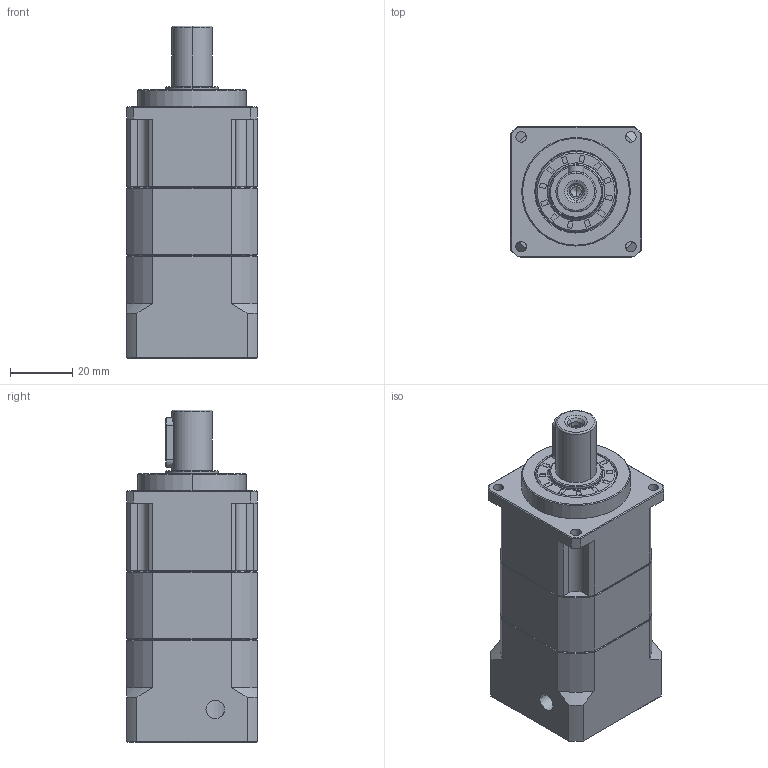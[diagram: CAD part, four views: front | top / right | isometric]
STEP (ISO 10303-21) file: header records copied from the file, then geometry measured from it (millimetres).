
FILE_DESCRIPTION (( 'STEP AP214' ), '1' );
FILE_NAME ('ZPB042-D13-L2-P1-8-30-46-M4.step', '2024-04-10T05:31:19', ( 'Windows 蚚誧' ), ( 'Organization' ), 'SwSTEP 2.0', 'SolidWorks 2016', '' );
FILE_SCHEMA (( 'AUTOMOTIVE_DESIGN' ));
Length unit declared in the file: millimetre
Products named in the file (1): ZPB042-D13-L2-P1-8-30-46-M4
Bounding box: 42 x 42 x 107 mm (x, y, z)
Volume: 116716.7 mm3; surface area: 39379.7 mm2
Topology: 9 solids, 18 shells, 1420 faces, 3669 edges, 2354 vertices
Faces by surface type: plane 653, bspline 337, cylinder 213, cone 211, torus 6
Entity records: 72730 total; most frequent: CARTESIAN_POINT 24403, ORIENTED_EDGE 7266, DIRECTION 5758, EDGE_CURVE 3633, VERTEX_POINT 2354, VECTOR 2180, LINE 2180, AXIS2_PLACEMENT_3D 1789
